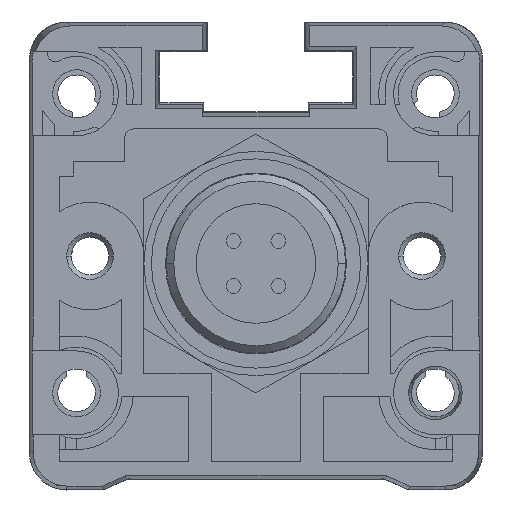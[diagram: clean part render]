
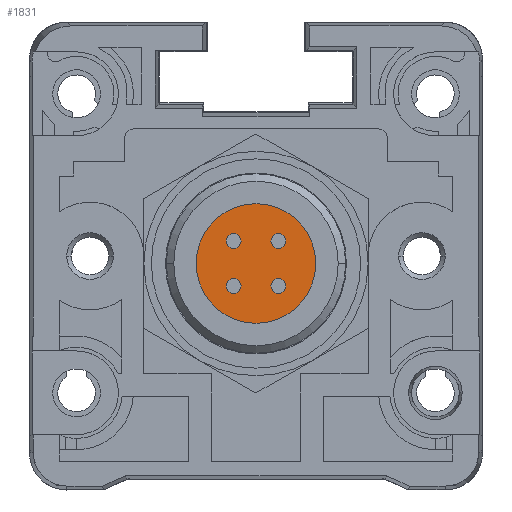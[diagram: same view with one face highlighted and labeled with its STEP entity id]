
A CAD part, left-side view. The second image highlights one B-rep face of the part: STEP entity #1831.
In plain terms, the highlighted planar face has unit normal (-1, 0, 0) as drawn and (1, 0, 0) by its records, which use the part's own axes.
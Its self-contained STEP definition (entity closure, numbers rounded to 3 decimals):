
#1093=FACE_BOUND('',#3312,.T.);
#1094=FACE_BOUND('',#3313,.T.);
#1095=FACE_BOUND('',#3314,.T.);
#1096=FACE_BOUND('',#3315,.T.);
#1097=FACE_BOUND('',#3316,.T.);
#1831=ADVANCED_FACE('',(#1093,#1094,#1095,#1096,#1097),#2221,.T.);
#2221=PLANE('',#12305);
#3312=EDGE_LOOP('',(#8631,#8632));
#3313=EDGE_LOOP('',(#8633,#8634));
#3314=EDGE_LOOP('',(#8635,#8636));
#3315=EDGE_LOOP('',(#8637,#8638));
#3316=EDGE_LOOP('',(#8639,#8640));
#8631=ORIENTED_EDGE('',*,*,#11154,.T.);
#8632=ORIENTED_EDGE('',*,*,#11152,.T.);
#8633=ORIENTED_EDGE('',*,*,#11155,.F.);
#8634=ORIENTED_EDGE('',*,*,#11156,.F.);
#8635=ORIENTED_EDGE('',*,*,#11157,.F.);
#8636=ORIENTED_EDGE('',*,*,#11158,.F.);
#8637=ORIENTED_EDGE('',*,*,#11159,.F.);
#8638=ORIENTED_EDGE('',*,*,#11160,.F.);
#8639=ORIENTED_EDGE('',*,*,#11161,.F.);
#8640=ORIENTED_EDGE('',*,*,#11162,.F.);
#9656=VERTEX_POINT('',#18272);
#9657=VERTEX_POINT('',#18274);
#9658=VERTEX_POINT('',#18280);
#9659=VERTEX_POINT('',#18281);
#9660=VERTEX_POINT('',#18284);
#9661=VERTEX_POINT('',#18285);
#9662=VERTEX_POINT('',#18288);
#9663=VERTEX_POINT('',#18289);
#9664=VERTEX_POINT('',#18292);
#9665=VERTEX_POINT('',#18293);
#11152=EDGE_CURVE('',#9657,#9656,#11447,.T.);
#11154=EDGE_CURVE('',#9656,#9657,#11448,.T.);
#11155=EDGE_CURVE('',#9658,#9659,#11449,.T.);
#11156=EDGE_CURVE('',#9659,#9658,#11450,.T.);
#11157=EDGE_CURVE('',#9660,#9661,#11451,.T.);
#11158=EDGE_CURVE('',#9661,#9660,#11452,.T.);
#11159=EDGE_CURVE('',#9662,#9663,#11453,.T.);
#11160=EDGE_CURVE('',#9663,#9662,#11454,.T.);
#11161=EDGE_CURVE('',#9664,#9665,#11455,.T.);
#11162=EDGE_CURVE('',#9665,#9664,#11456,.T.);
#11447=CIRCLE('',#12293,4.);
#11448=CIRCLE('',#12295,4.);
#11449=CIRCLE('',#12297,0.5);
#11450=CIRCLE('',#12298,0.5);
#11451=CIRCLE('',#12299,0.5);
#11452=CIRCLE('',#12300,0.5);
#11453=CIRCLE('',#12301,0.5);
#11454=CIRCLE('',#12302,0.5);
#11455=CIRCLE('',#12303,0.5);
#11456=CIRCLE('',#12304,0.5);
#12293=AXIS2_PLACEMENT_3D('',#18273,#15154,#15155);
#12295=AXIS2_PLACEMENT_3D('',#18277,#15159,#15160);
#12297=AXIS2_PLACEMENT_3D('',#18279,#15163,#15164);
#12298=AXIS2_PLACEMENT_3D('',#18282,#15165,#15166);
#12299=AXIS2_PLACEMENT_3D('',#18283,#15167,#15168);
#12300=AXIS2_PLACEMENT_3D('',#18286,#15169,#15170);
#12301=AXIS2_PLACEMENT_3D('',#18287,#15171,#15172);
#12302=AXIS2_PLACEMENT_3D('',#18290,#15173,#15174);
#12303=AXIS2_PLACEMENT_3D('',#18291,#15175,#15176);
#12304=AXIS2_PLACEMENT_3D('',#18294,#15177,#15178);
#12305=AXIS2_PLACEMENT_3D('',#18295,#15179,#15180);
#15154=DIRECTION('',(1.,0.,0.));
#15155=DIRECTION('',(0.,-1.,0.));
#15159=DIRECTION('',(1.,0.,0.));
#15160=DIRECTION('',(0.,1.,0.));
#15163=DIRECTION('',(1.,0.,0.));
#15164=DIRECTION('',(0.,1.,0.));
#15165=DIRECTION('',(1.,0.,0.));
#15166=DIRECTION('',(0.,-1.,0.));
#15167=DIRECTION('',(1.,0.,0.));
#15168=DIRECTION('',(0.,1.,0.));
#15169=DIRECTION('',(1.,0.,0.));
#15170=DIRECTION('',(0.,-1.,0.));
#15171=DIRECTION('',(1.,0.,0.));
#15172=DIRECTION('',(0.,1.,0.));
#15173=DIRECTION('',(1.,0.,0.));
#15174=DIRECTION('',(0.,-1.,0.));
#15175=DIRECTION('',(1.,0.,0.));
#15176=DIRECTION('',(0.,1.,0.));
#15177=DIRECTION('',(1.,0.,0.));
#15178=DIRECTION('',(0.,-1.,0.));
#15179=DIRECTION('',(1.,0.,0.));
#15180=DIRECTION('',(0.,1.,0.));
#18272=CARTESIAN_POINT('',(5.,4.,0.));
#18273=CARTESIAN_POINT('',(5.,0.,0.));
#18274=CARTESIAN_POINT('',(5.,-4.,0.));
#18277=CARTESIAN_POINT('',(5.,0.,0.));
#18279=CARTESIAN_POINT('',(5.,-1.5,-1.5));
#18280=CARTESIAN_POINT('',(5.,-1.,-1.5));
#18281=CARTESIAN_POINT('',(5.,-2.,-1.5));
#18282=CARTESIAN_POINT('',(5.,-1.5,-1.5));
#18283=CARTESIAN_POINT('',(5.,1.5,-1.5));
#18284=CARTESIAN_POINT('',(5.,2.,-1.5));
#18285=CARTESIAN_POINT('',(5.,1.,-1.5));
#18286=CARTESIAN_POINT('',(5.,1.5,-1.5));
#18287=CARTESIAN_POINT('',(5.,1.5,1.5));
#18288=CARTESIAN_POINT('',(5.,2.,1.5));
#18289=CARTESIAN_POINT('',(5.,1.,1.5));
#18290=CARTESIAN_POINT('',(5.,1.5,1.5));
#18291=CARTESIAN_POINT('',(5.,-1.5,1.5));
#18292=CARTESIAN_POINT('',(5.,-1.,1.5));
#18293=CARTESIAN_POINT('',(5.,-2.,1.5));
#18294=CARTESIAN_POINT('',(5.,-1.5,1.5));
#18295=CARTESIAN_POINT('',(5.,0.,0.));
